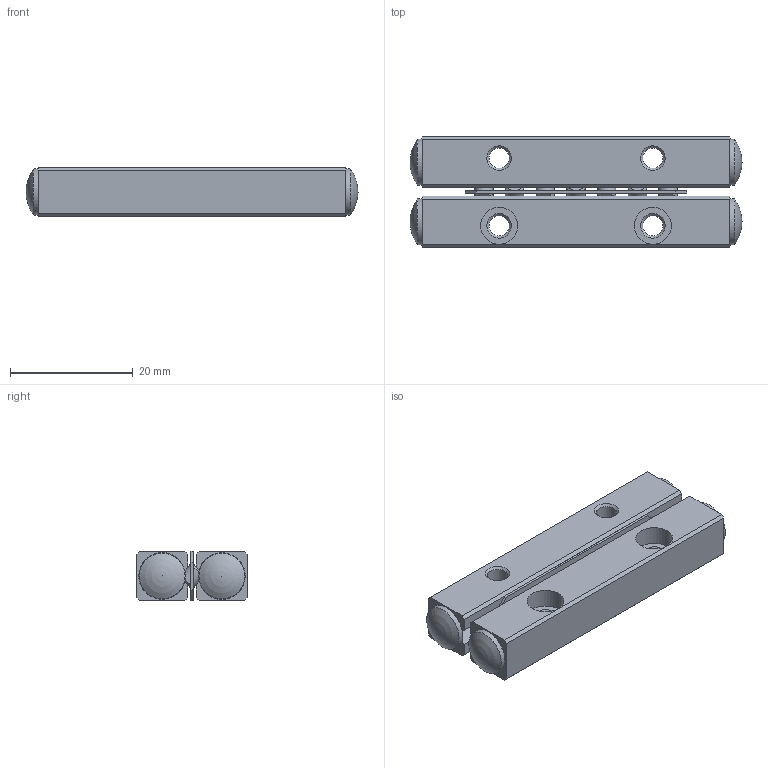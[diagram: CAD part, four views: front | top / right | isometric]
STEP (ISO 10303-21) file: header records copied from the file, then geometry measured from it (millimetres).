
FILE_DESCRIPTION(/* description */ ('Unknown'),/* implementation_level */ '2;1');
FILE_NAME(/* name */ 'VR3-50x7Z',/* time_stamp */ '2025-06-12T09:16:14+08:00',/* author */ ('Unknown'),/* organization */ ('Unknown'),/* preprocessor_version */ 'ST-DEVELOPER v18.102',/* originating_system */ 'Solid Edge',/* authorisation */ 'Unknown');
FILE_SCHEMA (('AUTOMOTIVE_DESIGN {1 0 10303 214 3 1 1}'));
Length unit declared in the file: millimetre
Products named in the file (4): VR3-50x7Z; VR3-50_7Z Roller guide; VR3-50_7Z Roller cage; VR3-50_7Z Roller guide; Top
Assembly tree (3 placements, depth 2):
  VR3-50x7Z
    VR3-50_7Z Roller guide
    VR3-50_7Z Roller cage
    VR3-50_7Z Roller guide; Top
Bounding box: 54 x 18 x 8 mm (x, y, z)
Volume: 6337.7 mm3; surface area: 4702.6 mm2
Topology: 3 solids, 3 shells, 145 faces, 387 edges, 248 vertices
Faces by surface type: plane 100, cone 26, cylinder 15, torus 4
Full cylindrical faces by diameter (mm): 3 x7, 3.3 x4, 6 x4
Entity records: 4329 total; most frequent: DIRECTION 720, CARTESIAN_POINT 719, ORIENTED_EDGE 660, EDGE_CURVE 330, AXIS2_PLACEMENT_3D 241, VERTEX_POINT 240, LINE 238, VECTOR 238
